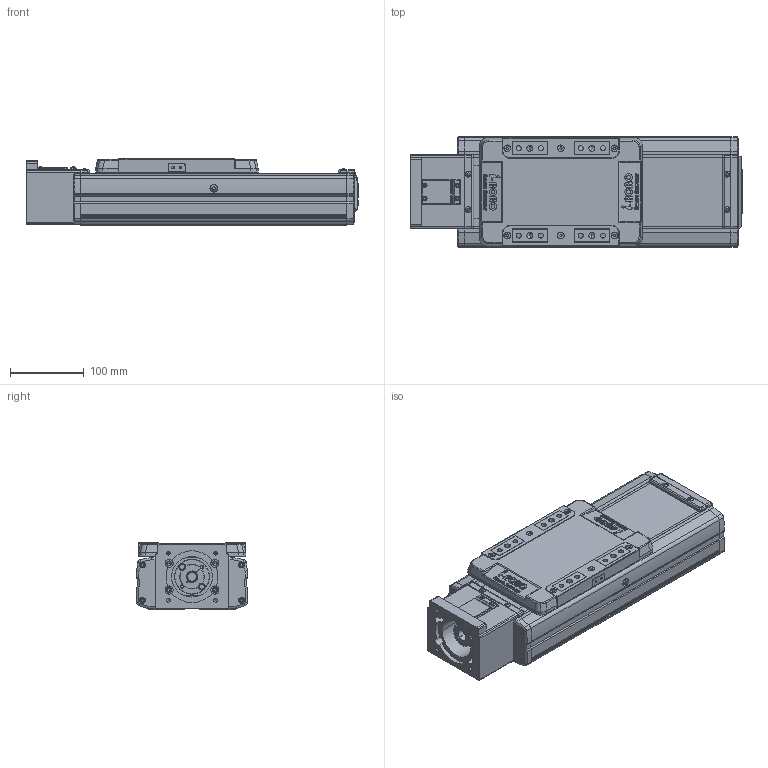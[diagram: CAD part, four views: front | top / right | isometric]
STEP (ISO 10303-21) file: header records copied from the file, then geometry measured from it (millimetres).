
FILE_DESCRIPTION(('STEP AP214'),'1');
FILE_NAME('Z:/Web/3D/SAN150/2013.04 (STP.)/SAN150ㅁㅁ-100S.stp','2013-05-08T02:38:25',(' '),(' '),'Spatial InterOp 3D',' ',' ');
FILE_SCHEMA(('automotive_design'));
Length unit declared in the file: millimetre
Products named in the file (73): SLBL-SAN150; SLCV-SAN150; FHCS M4.0 x 8.0; BHCS M4.0 x 10.0; SFX-SAN150; RRCV-SAN150; FRBL-SAN150; Spacer; RN15; FRCV-SAN150; Screw 20; BASE-SAN150-000L ; SUS COVER; 스크루 : Round - M5.0 x 6.0; BHCS M3.0 x 6.0; SSFX-SAN65; CPLCV-SAN65; SDWA47C(2); SDWA47C(3-1); SDWA47C(3); SDWA47C(1); SDWA47C(4); SDWA47C(5); MTHZ-SAN150-80
Bounding box: 449 x 150 x 90 mm (x, y, z)
Volume: 3154590.5 mm3; surface area: 623633.1 mm2
Topology: 73 solids, 73 shells, 2725 faces, 7097 edges, 4587 vertices
Faces by surface type: plane 1176, cylinder 1115, cone 337, sphere 52, bspline 29, torus 16
Entity records: 109940 total; most frequent: CARTESIAN_POINT 17648, DIRECTION 15443, ORIENTED_EDGE 14002, EDGE_CURVE 7001, AXIS2_PLACEMENT_3D 5801, VERTEX_POINT 4587, LINE 3841, VECTOR 3841
